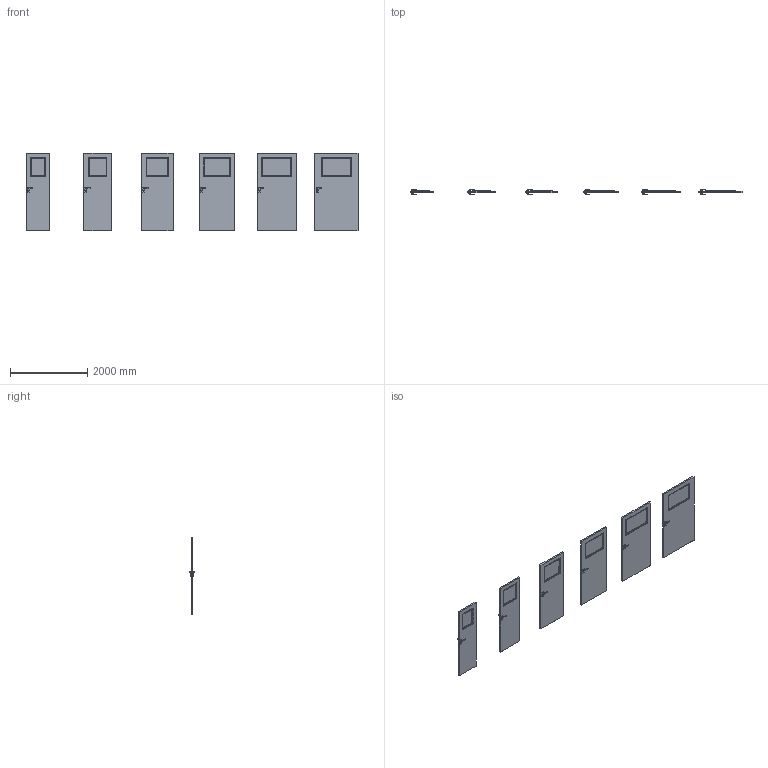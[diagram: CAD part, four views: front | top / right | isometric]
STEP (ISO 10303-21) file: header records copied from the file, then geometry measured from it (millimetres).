
FILE_DESCRIPTION(/* description */ (''),/* implementation_level */ '2;1');
FILE_NAME(/* name */ '049712_A_2-Skrzydło CPL model 1.2_ polska norma _PN__ bezprzylgowe..stp',/* time_stamp */ '2024-02-15T08:15:01+01:00',/* author */ (''),/* organization */ (''),/* preprocessor_version */ 'ST-DEVELOPER v16',/* originating_system */ 'SIEMENS PLM Software NX 11.0',/* authorisation */ '');
FILE_SCHEMA (('AUTOMOTIVE_DESIGN { 1 0 10303 214 3 1 1 1 }'));
Products named in the file (1): bkni40C8F431vy9v
Bounding box: 8618 x 153.27 x 2017 mm (x, y, z)
Volume: 374673216.2 mm3; surface area: 34349526.6 mm2
Topology: 217 solids, 217 shells, 4004 faces, 10182 edges, 6492 vertices
Faces by surface type: plane 2366, bspline 1182, cylinder 288, sphere 168
Entity records: 136874 total; most frequent: CARTESIAN_POINT 49094, ORIENTED_EDGE 20028, DIRECTION 14220, EDGE_CURVE 10014, LINE 6774, VECTOR 6774, VERTEX_POINT 6492, EDGE_LOOP 4088
